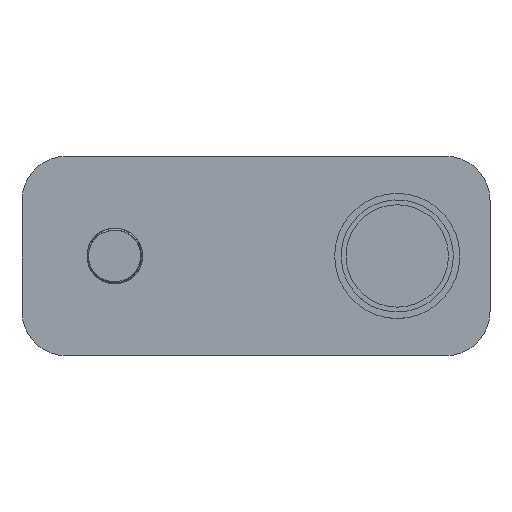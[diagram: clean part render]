
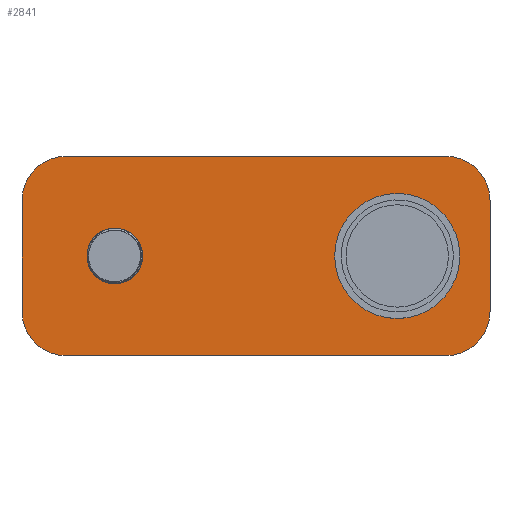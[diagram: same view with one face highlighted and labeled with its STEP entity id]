
A CAD part, top view. The second image highlights one B-rep face of the part: STEP entity #2841.
In plain terms, the highlighted planar face has unit normal (0, 0, 1).
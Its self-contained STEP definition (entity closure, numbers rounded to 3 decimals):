
#75=LINE('',#8849,#148);
#76=LINE('',#8853,#149);
#77=LINE('',#8857,#150);
#78=LINE('',#8861,#151);
#148=VECTOR('',#4009,10.);
#149=VECTOR('',#4012,10.);
#150=VECTOR('',#4015,10.);
#151=VECTOR('',#4018,10.);
#442=FACE_BOUND('',#823,.T.);
#443=FACE_BOUND('',#824,.T.);
#619=FACE_OUTER_BOUND('',#822,.T.);
#822=EDGE_LOOP('',(#2405,#2406,#2407,#2408,#2409,#2410,#2411,#2412));
#823=EDGE_LOOP('',(#2413));
#824=EDGE_LOOP('',(#2414));
#878=CIRCLE('',#2947,9.25);
#1041=CIRCLE('',#3225,16.);
#1042=CIRCLE('',#3226,16.);
#1043=CIRCLE('',#3227,16.);
#1044=CIRCLE('',#3228,16.);
#1045=CIRCLE('',#3229,22.6);
#1099=VERTEX_POINT('',#4840);
#1270=VERTEX_POINT('',#8847);
#1271=VERTEX_POINT('',#8848);
#1272=VERTEX_POINT('',#8850);
#1273=VERTEX_POINT('',#8852);
#1274=VERTEX_POINT('',#8854);
#1275=VERTEX_POINT('',#8856);
#1276=VERTEX_POINT('',#8858);
#1277=VERTEX_POINT('',#8860);
#1278=VERTEX_POINT('',#8863);
#1355=EDGE_CURVE('',#1099,#1099,#878,.T.);
#1653=EDGE_CURVE('',#1270,#1271,#75,.T.);
#1654=EDGE_CURVE('',#1272,#1270,#1041,.T.);
#1655=EDGE_CURVE('',#1273,#1272,#76,.T.);
#1656=EDGE_CURVE('',#1274,#1273,#1042,.T.);
#1657=EDGE_CURVE('',#1275,#1274,#77,.T.);
#1658=EDGE_CURVE('',#1276,#1275,#1043,.T.);
#1659=EDGE_CURVE('',#1277,#1276,#78,.T.);
#1660=EDGE_CURVE('',#1271,#1277,#1044,.T.);
#1661=EDGE_CURVE('',#1278,#1278,#1045,.T.);
#2405=ORIENTED_EDGE('',*,*,#1653,.F.);
#2406=ORIENTED_EDGE('',*,*,#1654,.F.);
#2407=ORIENTED_EDGE('',*,*,#1655,.F.);
#2408=ORIENTED_EDGE('',*,*,#1656,.F.);
#2409=ORIENTED_EDGE('',*,*,#1657,.F.);
#2410=ORIENTED_EDGE('',*,*,#1658,.F.);
#2411=ORIENTED_EDGE('',*,*,#1659,.F.);
#2412=ORIENTED_EDGE('',*,*,#1660,.F.);
#2413=ORIENTED_EDGE('',*,*,#1355,.T.);
#2414=ORIENTED_EDGE('',*,*,#1661,.T.);
#2478=PLANE('',#3224);
#2841=ADVANCED_FACE('',(#619,#442,#443),#2478,.F.);
#2947=AXIS2_PLACEMENT_3D('',#4841,#3407,#3408);
#3224=AXIS2_PLACEMENT_3D('',#8846,#4007,#4008);
#3225=AXIS2_PLACEMENT_3D('',#8851,#4010,#4011);
#3226=AXIS2_PLACEMENT_3D('',#8855,#4013,#4014);
#3227=AXIS2_PLACEMENT_3D('',#8859,#4016,#4017);
#3228=AXIS2_PLACEMENT_3D('',#8862,#4019,#4020);
#3229=AXIS2_PLACEMENT_3D('',#8864,#4021,#4022);
#3407=DIRECTION('center_axis',(0.,0.,
-1.));
#3408=DIRECTION('ref_axis',(0.,-1.,0.));
#4007=DIRECTION('center_axis',(0.,0.,
-1.));
#4008=DIRECTION('ref_axis',(1.,0.,0.));
#4009=DIRECTION('',(-1.,0.,0.));
#4010=DIRECTION('center_axis',(0.,0.,
-1.));
#4011=DIRECTION('ref_axis',(1.,0.,0.));
#4012=DIRECTION('',(0.,-1.,0.));
#4013=DIRECTION('center_axis',(0.,0.,
-1.));
#4014=DIRECTION('ref_axis',(0.,1.,0.));
#4015=DIRECTION('',(1.,0.,0.));
#4016=DIRECTION('center_axis',(0.,0.,
-1.));
#4017=DIRECTION('ref_axis',(-1.,0.,0.));
#4018=DIRECTION('',(0.,1.,0.));
#4019=DIRECTION('center_axis',(0.,0.,
-1.));
#4020=DIRECTION('ref_axis',(0.,-1.,0.));
#4021=DIRECTION('center_axis',(0.,0.,
-1.));
#4022=DIRECTION('ref_axis',(-1.,0.,0.));
#4840=CARTESIAN_POINT('',(-51.2,9.25,0.));
#4841=CARTESIAN_POINT('Origin',(-51.2,0.,
0.));
#8846=CARTESIAN_POINT('Origin',(-0.2,0.,
0.));
#8847=CARTESIAN_POINT('',(68.3,-36.,0.));
#8848=CARTESIAN_POINT('',(-68.7,-36.,0.));
#8849=CARTESIAN_POINT('',(68.3,-36.,0.));
#8850=CARTESIAN_POINT('',(84.3,-20.,0.));
#8851=CARTESIAN_POINT('Origin',(68.3,-20.,0.));
#8852=CARTESIAN_POINT('',(84.3,20.,0.));
#8853=CARTESIAN_POINT('',(84.3,20.,0.));
#8854=CARTESIAN_POINT('',(68.3,36.,0.));
#8855=CARTESIAN_POINT('Origin',(68.3,20.,0.));
#8856=CARTESIAN_POINT('',(-68.7,36.,0.));
#8857=CARTESIAN_POINT('',(-68.7,36.,0.));
#8858=CARTESIAN_POINT('',(-84.7,20.,0.));
#8859=CARTESIAN_POINT('Origin',(-68.7,20.,0.));
#8860=CARTESIAN_POINT('',(-84.7,-20.,0.));
#8861=CARTESIAN_POINT('',(-84.7,-20.,0.));
#8862=CARTESIAN_POINT('Origin',(-68.7,-20.,0.));
#8863=CARTESIAN_POINT('',(28.2,0.,0.));
#8864=CARTESIAN_POINT('Origin',(50.8,0.,
0.));
